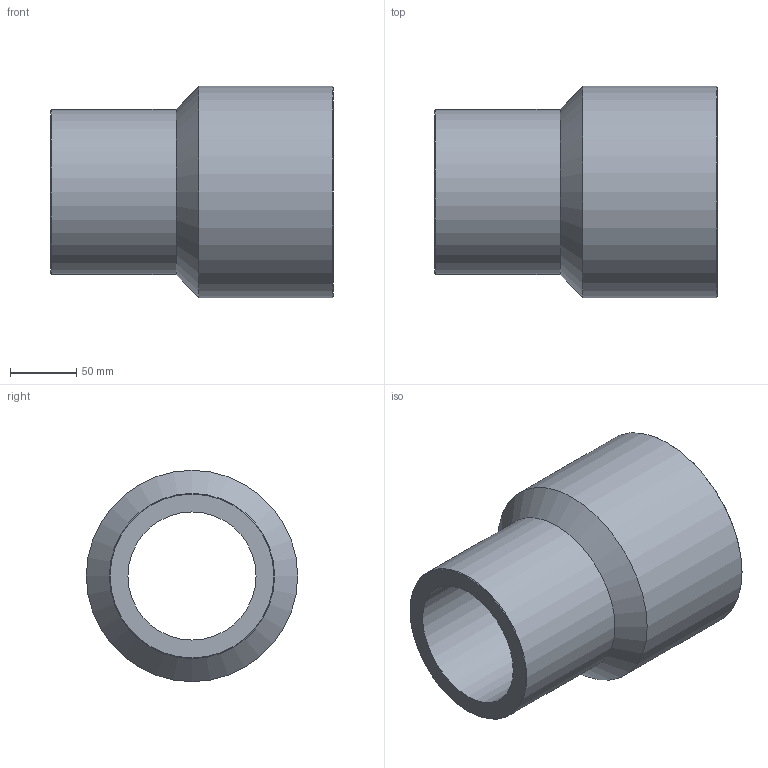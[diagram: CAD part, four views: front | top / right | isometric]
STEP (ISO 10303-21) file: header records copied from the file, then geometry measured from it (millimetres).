
FILE_DESCRIPTION(/* description */ ('Unknown'),/* implementation_level */ '2;1');
FILE_NAME(/* name */ 'RP160125G',/* time_stamp */ '2021-09-16T17:02:46+02:00',/* author */ ('Unknown'),/* organization */ ('Unknown'),/* preprocessor_version */ 'ST-DEVELOPER v16.7',/* originating_system */ 'Solid Edge',/* authorisation */ 'Unknown');
FILE_SCHEMA (('AUTOMOTIVE_DESIGN {1 0 10303 214 3 1 1}'));
Length unit declared in the file: millimetre
Products named in the file (1): RP160125G
Bounding box: 214 x 160 x 160 mm (x, y, z)
Volume: 1425287.4 mm3; surface area: 187478 mm2
Topology: 1 solids, 1 shells, 10 faces, 19 edges, 11 vertices
Faces by surface type: cylinder 4, cone 4, plane 2
Full cylindrical faces by diameter (mm): 97 x1, 124.2 x1, 125 x1, 160 x1
Entity records: 238 total; most frequent: DIRECTION 42, CARTESIAN_POINT 31, AXIS2_PLACEMENT_3D 21, ORIENTED_EDGE 20, EDGE_LOOP 20, FACE_BOUND 20, EDGE_CURVE 10, VERTEX_POINT 10
